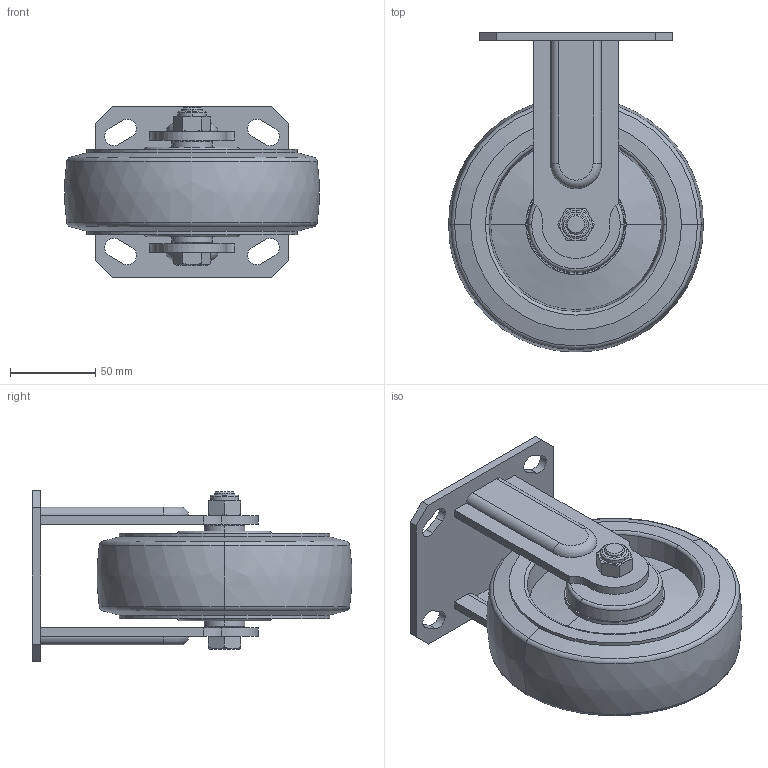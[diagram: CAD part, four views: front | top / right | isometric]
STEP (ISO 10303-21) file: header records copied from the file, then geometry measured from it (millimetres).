
FILE_DESCRIPTION((''),'2;1');
FILE_NAME('S7106_ASM','2021-10-15T',('lenovo'),(''),'PRO/ENGINEER BY PARAMETRIC TECHNOLOGY CORPORATION, 2010280','PRO/ENGINEER BY PARAMETRIC TECHNOLOGY CORPORATION, 2010280','');
FILE_SCHEMA(('CONFIG_CONTROL_DESIGN'));
Length unit declared in the file: millimetre
Products named in the file (6): S710C00; S716C10; S710-33; S710-34; 706-986; S7106_ASM
Assembly tree (6 placements, depth 2):
  S7106_ASM
    S710C00
    S716C10  x2
    S710-33
    S710-34
    706-986
Bounding box: 149.63 x 187.82 x 100 mm (x, y, z)
Volume: 827182.9 mm3; surface area: 127193.9 mm2
Topology: 6 solids, 6 shells, 170 faces, 398 edges, 248 vertices
Faces by surface type: plane 58, cylinder 48, cone 42, torus 20, bspline 2
Entity records: 4685 total; most frequent: CARTESIAN_POINT 992, DIRECTION 812, ORIENTED_EDGE 700, EDGE_CURVE 350, AXIS2_PLACEMENT_3D 330, VERTEX_POINT 216, EDGE_LOOP 174, CIRCLE 168
